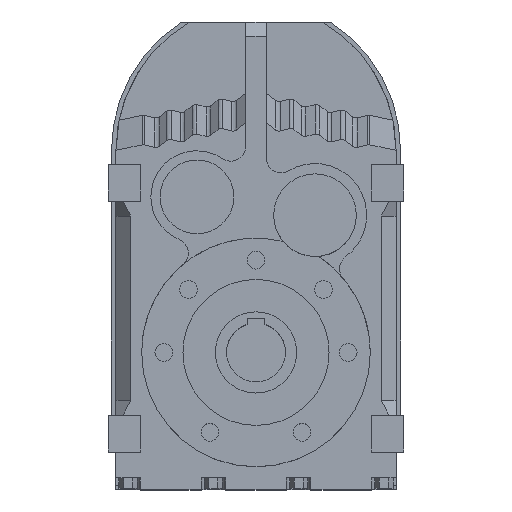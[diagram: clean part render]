
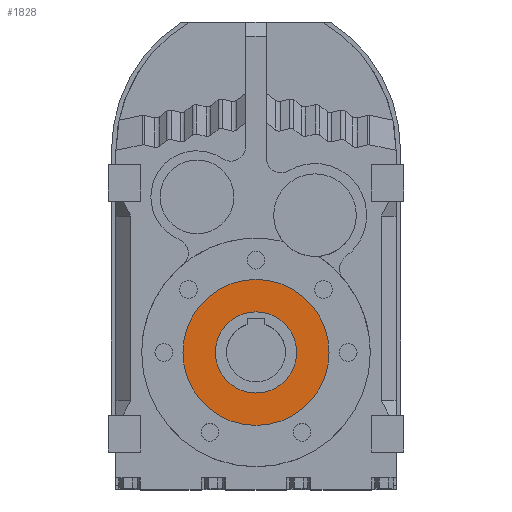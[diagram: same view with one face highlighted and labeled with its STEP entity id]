
A CAD part, top view. The second image highlights one B-rep face of the part: STEP entity #1828.
In plain terms, the highlighted planar face has unit normal (0, 0, 1).
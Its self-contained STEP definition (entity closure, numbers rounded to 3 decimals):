
#688 = CYLINDRICAL_SURFACE('',#689,49.5);
#689 = AXIS2_PLACEMENT_3D('',#690,#691,#692);
#690 = CARTESIAN_POINT('',(0.,-136.,110.123));
#691 = DIRECTION('',(0.,0.,1.));
#692 = DIRECTION('',(1.,0.,0.));
#714 = CYLINDRICAL_SURFACE('',#715,49.5);
#715 = AXIS2_PLACEMENT_3D('',#716,#717,#718);
#716 = CARTESIAN_POINT('',(0.,-136.,110.123));
#717 = DIRECTION('',(0.,0.,1.));
#718 = DIRECTION('',(1.,0.,0.));
#801 = VERTEX_POINT('',#802);
#802 = CARTESIAN_POINT('',(-49.5,-136.,145.5));
#823 = VERTEX_POINT('',#824);
#824 = CARTESIAN_POINT('',(49.5,-136.,145.5));
#843 = EDGE_CURVE('',#823,#801,#844,.T.);
#844 = SURFACE_CURVE('',#845,(#850,#856),.PCURVE_S1.);
#845 = CIRCLE('',#846,49.5);
#846 = AXIS2_PLACEMENT_3D('',#847,#848,#849);
#847 = CARTESIAN_POINT('',(0.,-136.,145.5));
#848 = DIRECTION('',(0.,0.,1.));
#849 = DIRECTION('',(1.,0.,0.));
#850 = PCURVE('',#688,#851);
#851 = DEFINITIONAL_REPRESENTATION('',(#852),#855);
#852 = B_SPLINE_CURVE_WITH_KNOTS('',1,(#853,#854),.UNSPECIFIED.,.F.,.F.,
  (2,2),(0.,3.142),.PIECEWISE_BEZIER_KNOTS.);
#853 = CARTESIAN_POINT('',(0.,35.377));
#854 = CARTESIAN_POINT('',(3.142,35.377));
#855 = ( GEOMETRIC_REPRESENTATION_CONTEXT(2) 
PARAMETRIC_REPRESENTATION_CONTEXT() REPRESENTATION_CONTEXT('2D SPACE',''
  ) );
#856 = PCURVE('',#857,#862);
#857 = PLANE('',#858);
#858 = AXIS2_PLACEMENT_3D('',#859,#860,#861);
#859 = CARTESIAN_POINT('',(0.,-86.5,145.5));
#860 = DIRECTION('',(0.,0.,1.));
#861 = DIRECTION('',(1.,0.,0.));
#862 = DEFINITIONAL_REPRESENTATION('',(#863),#867);
#863 = CIRCLE('',#864,49.5);
#864 = AXIS2_PLACEMENT_2D('',#865,#866);
#865 = CARTESIAN_POINT('',(0.,-49.5));
#866 = DIRECTION('',(1.,0.));
#867 = ( GEOMETRIC_REPRESENTATION_CONTEXT(2) 
PARAMETRIC_REPRESENTATION_CONTEXT() REPRESENTATION_CONTEXT('2D SPACE',''
  ) );
#1245 = EDGE_CURVE('',#801,#823,#1246,.T.);
#1246 = SURFACE_CURVE('',#1247,(#1252,#1258),.PCURVE_S1.);
#1247 = CIRCLE('',#1248,49.5);
#1248 = AXIS2_PLACEMENT_3D('',#1249,#1250,#1251);
#1249 = CARTESIAN_POINT('',(0.,-136.,145.5));
#1250 = DIRECTION('',(0.,0.,1.));
#1251 = DIRECTION('',(1.,0.,0.));
#1252 = PCURVE('',#714,#1253);
#1253 = DEFINITIONAL_REPRESENTATION('',(#1254),#1257);
#1254 = B_SPLINE_CURVE_WITH_KNOTS('',1,(#1255,#1256),.UNSPECIFIED.,.F.,
  .F.,(2,2),(3.142,6.283),.PIECEWISE_BEZIER_KNOTS.);
#1255 = CARTESIAN_POINT('',(3.142,35.377));
#1256 = CARTESIAN_POINT('',(6.283,35.377));
#1257 = ( GEOMETRIC_REPRESENTATION_CONTEXT(2) 
PARAMETRIC_REPRESENTATION_CONTEXT() REPRESENTATION_CONTEXT('2D SPACE',''
  ) );
#1258 = PCURVE('',#857,#1259);
#1259 = DEFINITIONAL_REPRESENTATION('',(#1260),#1264);
#1260 = CIRCLE('',#1261,49.5);
#1261 = AXIS2_PLACEMENT_2D('',#1262,#1263);
#1262 = CARTESIAN_POINT('',(0.,-49.5));
#1263 = DIRECTION('',(1.,0.));
#1264 = ( GEOMETRIC_REPRESENTATION_CONTEXT(2) 
PARAMETRIC_REPRESENTATION_CONTEXT() REPRESENTATION_CONTEXT('2D SPACE',''
  ) );
#1828 = ADVANCED_FACE('',(#1829,#1833),#857,.T.);
#1829 = FACE_BOUND('',#1830,.T.);
#1830 = EDGE_LOOP('',(#1831,#1832));
#1831 = ORIENTED_EDGE('',*,*,#843,.T.);
#1832 = ORIENTED_EDGE('',*,*,#1245,.T.);
#1833 = FACE_BOUND('',#1834,.T.);
#1834 = EDGE_LOOP('',(#1835,#1865));
#1835 = ORIENTED_EDGE('',*,*,#1836,.F.);
#1836 = EDGE_CURVE('',#1837,#1839,#1841,.T.);
#1837 = VERTEX_POINT('',#1838);
#1838 = CARTESIAN_POINT('',(27.5,-136.,145.5));
#1839 = VERTEX_POINT('',#1840);
#1840 = CARTESIAN_POINT('',(-27.5,-136.,145.5));
#1841 = SURFACE_CURVE('',#1842,(#1847,#1854),.PCURVE_S1.);
#1842 = CIRCLE('',#1843,27.5);
#1843 = AXIS2_PLACEMENT_3D('',#1844,#1845,#1846);
#1844 = CARTESIAN_POINT('',(0.,-136.,145.5));
#1845 = DIRECTION('',(0.,0.,1.));
#1846 = DIRECTION('',(1.,0.,0.));
#1847 = PCURVE('',#857,#1848);
#1848 = DEFINITIONAL_REPRESENTATION('',(#1849),#1853);
#1849 = CIRCLE('',#1850,27.5);
#1850 = AXIS2_PLACEMENT_2D('',#1851,#1852);
#1851 = CARTESIAN_POINT('',(0.,-49.5));
#1852 = DIRECTION('',(1.,0.));
#1853 = ( GEOMETRIC_REPRESENTATION_CONTEXT(2) 
PARAMETRIC_REPRESENTATION_CONTEXT() REPRESENTATION_CONTEXT('2D SPACE',''
  ) );
#1854 = PCURVE('',#1855,#1860);
#1855 = CYLINDRICAL_SURFACE('',#1856,27.5);
#1856 = AXIS2_PLACEMENT_3D('',#1857,#1858,#1859);
#1857 = CARTESIAN_POINT('',(0.,-136.,110.123));
#1858 = DIRECTION('',(0.,0.,1.));
#1859 = DIRECTION('',(1.,0.,0.));
#1860 = DEFINITIONAL_REPRESENTATION('',(#1861),#1864);
#1861 = B_SPLINE_CURVE_WITH_KNOTS('',1,(#1862,#1863),.UNSPECIFIED.,.F.,
  .F.,(2,2),(0.,3.142),.PIECEWISE_BEZIER_KNOTS.);
#1862 = CARTESIAN_POINT('',(0.,35.377));
#1863 = CARTESIAN_POINT('',(3.142,35.377));
#1864 = ( GEOMETRIC_REPRESENTATION_CONTEXT(2) 
PARAMETRIC_REPRESENTATION_CONTEXT() REPRESENTATION_CONTEXT('2D SPACE',''
  ) );
#1865 = ORIENTED_EDGE('',*,*,#1866,.F.);
#1866 = EDGE_CURVE('',#1839,#1837,#1867,.T.);
#1867 = SURFACE_CURVE('',#1868,(#1873,#1880),.PCURVE_S1.);
#1868 = CIRCLE('',#1869,27.5);
#1869 = AXIS2_PLACEMENT_3D('',#1870,#1871,#1872);
#1870 = CARTESIAN_POINT('',(0.,-136.,145.5));
#1871 = DIRECTION('',(0.,0.,1.));
#1872 = DIRECTION('',(1.,0.,0.));
#1873 = PCURVE('',#857,#1874);
#1874 = DEFINITIONAL_REPRESENTATION('',(#1875),#1879);
#1875 = CIRCLE('',#1876,27.5);
#1876 = AXIS2_PLACEMENT_2D('',#1877,#1878);
#1877 = CARTESIAN_POINT('',(0.,-49.5));
#1878 = DIRECTION('',(1.,0.));
#1879 = ( GEOMETRIC_REPRESENTATION_CONTEXT(2) 
PARAMETRIC_REPRESENTATION_CONTEXT() REPRESENTATION_CONTEXT('2D SPACE',''
  ) );
#1880 = PCURVE('',#1881,#1886);
#1881 = CYLINDRICAL_SURFACE('',#1882,27.5);
#1882 = AXIS2_PLACEMENT_3D('',#1883,#1884,#1885);
#1883 = CARTESIAN_POINT('',(0.,-136.,110.123));
#1884 = DIRECTION('',(0.,0.,1.));
#1885 = DIRECTION('',(1.,0.,0.));
#1886 = DEFINITIONAL_REPRESENTATION('',(#1887),#1890);
#1887 = B_SPLINE_CURVE_WITH_KNOTS('',1,(#1888,#1889),.UNSPECIFIED.,.F.,
  .F.,(2,2),(3.142,6.283),.PIECEWISE_BEZIER_KNOTS.);
#1888 = CARTESIAN_POINT('',(3.142,35.377));
#1889 = CARTESIAN_POINT('',(6.283,35.377));
#1890 = ( GEOMETRIC_REPRESENTATION_CONTEXT(2) 
PARAMETRIC_REPRESENTATION_CONTEXT() REPRESENTATION_CONTEXT('2D SPACE',''
  ) );
